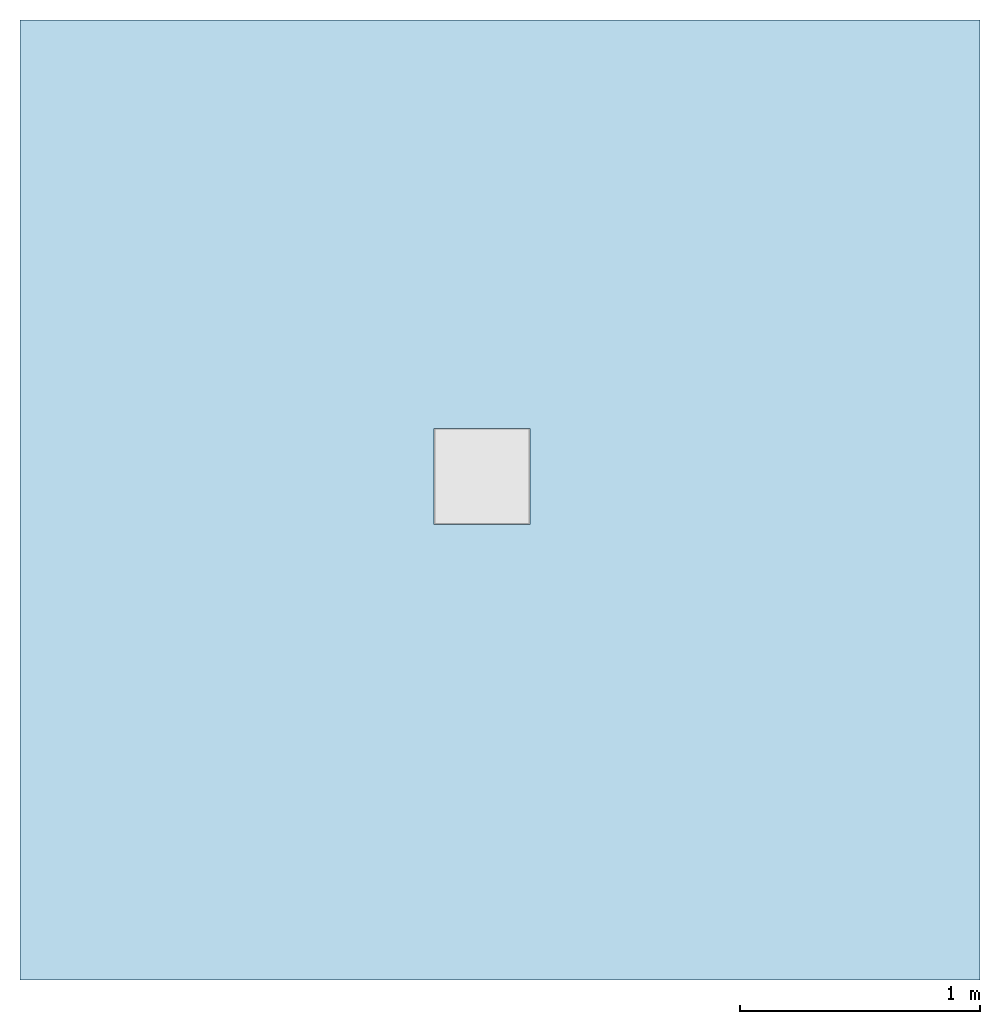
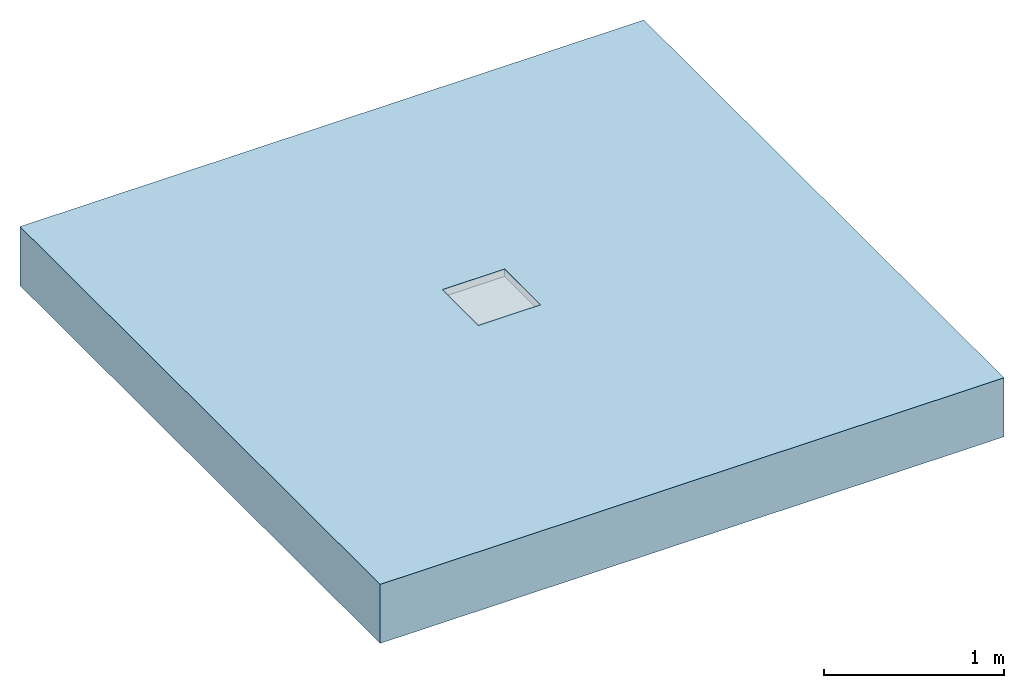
# One storey, incomplete: 1 slab.
"""IFC2X3 building model written with IfcOpenShell, lengths in millimetres."""

from ifc_helpers import new_model, entity, si_unit, converted_unit, derived_unit, direction, frame, frame_2d, origin, place, context, subcontext, project, spatial, polyline, rectangle, extrude, clip, bounded_halfspace, material, layer, layer_set, layer_usage, element, save


model = new_model("IFC2X3")

# Units and contexts
model_context = context("Model", 3, precision=1e-05, world=origin(), true_north=direction((2.0, 6.12303176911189e-17, 1.0)))
context_of_model = context(None, 3, precision=1e-05, world=origin(), true_north=direction((2.0, 6.12303176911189e-17, 1.0)))
body_context = subcontext(model_context, "Body", "Model", "MODEL_VIEW")
ifc_project = project(units=[si_unit("LENGTHUNIT", "METRE", prefix="MILLI"), si_unit("AREAUNIT", "SQUARE_METRE"), si_unit("VOLUMEUNIT", "CUBIC_METRE"), converted_unit("PLANEANGLEUNIT", "DEGREE", entity("IfcRatioMeasure", 0.0174532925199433), si_unit("PLANEANGLEUNIT", "RADIAN"), dimensions=[0, 0, 0, 0, 0, 0, 0]), si_unit("MASSUNIT", "GRAM", prefix="KILO"), si_unit("TIMEUNIT", "SECOND"), si_unit("THERMODYNAMICTEMPERATUREUNIT", "KELVIN"), derived_unit("THERMALTRANSMITTANCEUNIT", [(si_unit("MASSUNIT", "GRAM", prefix="KILO"), 1), (si_unit("THERMODYNAMICTEMPERATUREUNIT", "KELVIN"), -1), (si_unit("TIMEUNIT", "SECOND"), -3)]), derived_unit("VOLUMETRICFLOWRATEUNIT", [(si_unit("LENGTHUNIT", "METRE"), 3), (si_unit("TIMEUNIT", "SECOND"), -1)]), si_unit("POWERUNIT", "WATT")], contexts=[model_context, context_of_model])

# Site, building, storey
site_placement = place(None, origin())
site = spatial("IfcSite", under=ifc_project, at=site_placement, Name="Default", CompositionType="ELEMENT")
building_placement = place(site_placement, origin())
building = spatial("IfcBuilding", under=site, at=building_placement, CompositionType="ELEMENT")
storey_placement = place(building_placement, origin())
storey = spatial("IfcBuildingStorey", under=building, at=storey_placement, Name="Level 1", CompositionType="ELEMENT", Elevation=0.0)

# Slab
ifc_material = material(Name="Concrete, Broom Finish")
ifc_layer = layer(ifc_material, 400.0)
ifc_layer_set = layer_set([ifc_layer], Name="Floor:Generic Floor - 400mm")
ifc_layer_usage = layer_usage(ifc_layer_set, "AXIS3", "POSITIVE", 0.0)
slab_placement = place(storey_placement, origin())
element("IfcSlab", 1, at=slab_placement, inside=storey, material=ifc_layer_usage, Name="Floor:Generic Floor - 400mm", ObjectType="Floor:Generic Floor - 400mm", PredefinedType="FLOOR", context=body_context, shape_type="Clipping", body=[
    clip(extrude(rectangle(XDim=4000.0, YDim=4000.0, at=frame_2d((3.41060513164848e-13, 0.0), x_axis=(1.0, 0.0))), frame((-42.1761383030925, 2.05004766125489, 0.0), z_axis=(0.0, 0.0, -1.0), x_axis=(0.0, 1.0, 0.0)), (0.0, 0.0, 1.0), 400.0), bounded_halfspace(frame((83.1270920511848, -99.3502164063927, -50.0)), False, frame((-42.1761383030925, 2.05004766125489, 0.0), z_axis=(0.0, 0.0, -1.0), x_axis=(0.0, 1.0, 0.0)), polyline([(-101.400264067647, 125.303230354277), (298.599735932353, 125.303230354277), (298.599735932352, -274.696769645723), (-101.400264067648, -274.696769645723), (-101.400264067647, 125.303230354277)]))),
])

save(model, "model.ifc")
